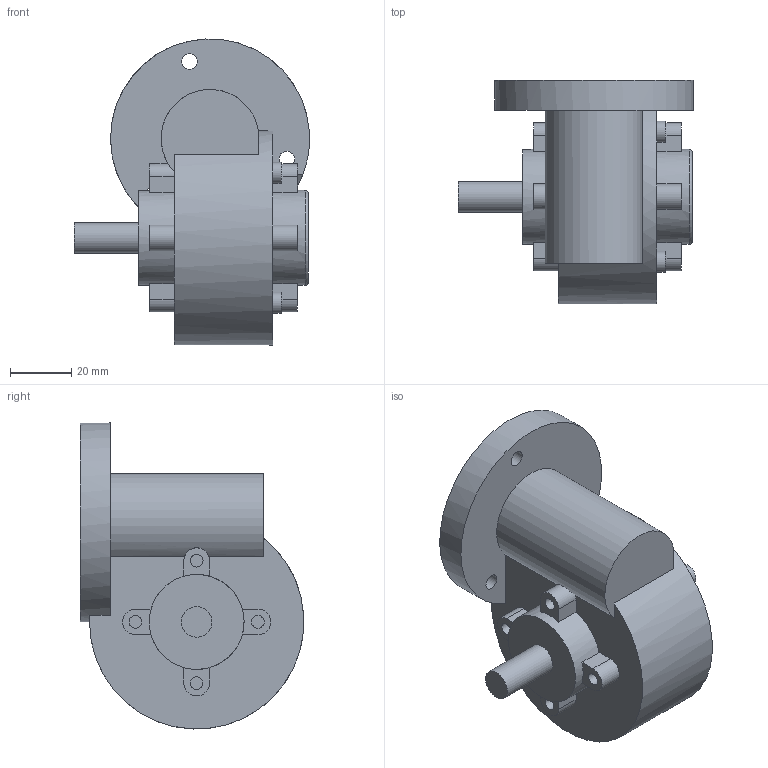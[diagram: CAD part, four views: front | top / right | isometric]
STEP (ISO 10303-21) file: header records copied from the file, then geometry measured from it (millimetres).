
FILE_DESCRIPTION( ( 'Unknown' ), '1' );
FILE_NAME( 'H:/Gear/HFOS C-32.stp', 'Unknown', ( 'Unknown' ), ( 'Unknown' ), 'PSStep 10.1', 'Unknown', ' ' );
FILE_SCHEMA( ( 'AUTOMOTIVE_DESIGN { 1 0 10303 214 1 1 1 1 }' ) );
Length unit declared in the file: millimetre
Products named in the file (1): 1
Bounding box: 76.81 x 72.94 x 99.96 mm (x, y, z)
Volume: 195137.4 mm3; surface area: 28148.6 mm2
Topology: 1 solids, 1 shells, 83 faces, 211 edges, 139 vertices
Faces by surface type: plane 55, cylinder 27, torus 1
Full cylindrical faces by diameter (mm): 4.134 x4, 5.1 x3, 6.9 x4, 10 x1, 31 x2, 31.7 x1
Entity records: 3134 total; most frequent: CARTESIAN_POINT 450, DIRECTION 434, ORIENTED_EDGE 380, EDGE_CURVE 190, AXIS2_PLACEMENT_3D 164, VERTEX_POINT 134, EDGE_LOOP 118, LINE 106
